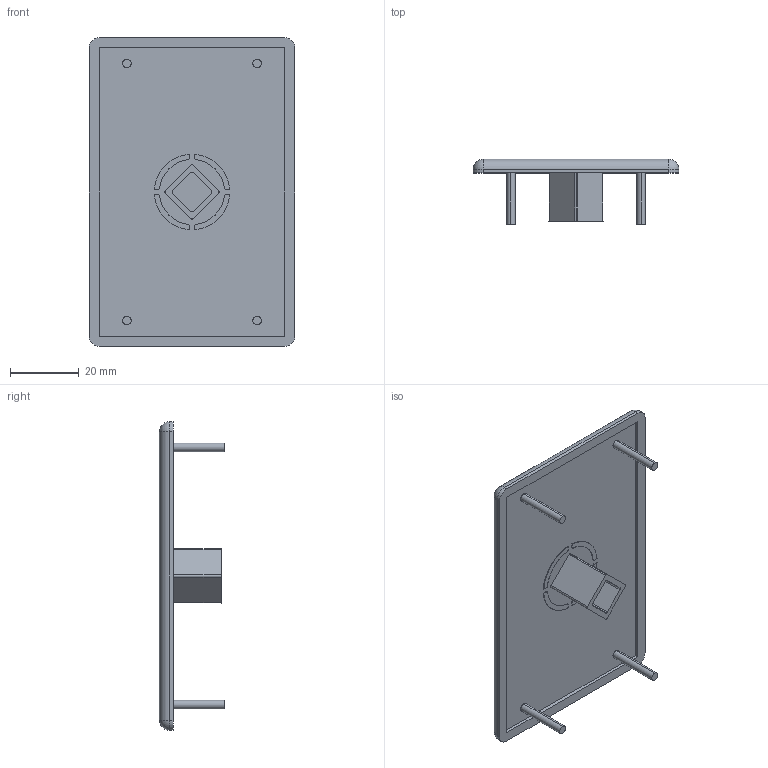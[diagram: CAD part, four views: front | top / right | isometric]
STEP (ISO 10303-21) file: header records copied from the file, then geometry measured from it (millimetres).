
FILE_DESCRIPTION (( 'STEP AP203' ), '1' );
FILE_NAME ('401075_Abdeckkappe 60x90 Nut 10, ESD.step', '2023-11-23T12:41:23', ( '' ), ( '' ), 'SwSTEP 2.0', 'SolidWorks 2021', '' );
FILE_SCHEMA (( 'CONFIG_CONTROL_DESIGN' ));
Length unit declared in the file: millimetre
Products named in the file (1): 401075_Abdeckkappe 60x90 Nut 10, ESD
Bounding box: 60 x 19 x 90 mm (x, y, z)
Volume: 17703.4 mm3; surface area: 13558.7 mm2
Topology: 1 solids, 1 shells, 83 faces, 202 edges, 128 vertices
Faces by surface type: cylinder 42, plane 37, sphere 4
Entity records: 2497 total; most frequent: DIRECTION 450, CARTESIAN_POINT 410, ORIENTED_EDGE 396, EDGE_CURVE 198, AXIS2_PLACEMENT_3D 168, VERTEX_POINT 128, VECTOR 114, LINE 114
